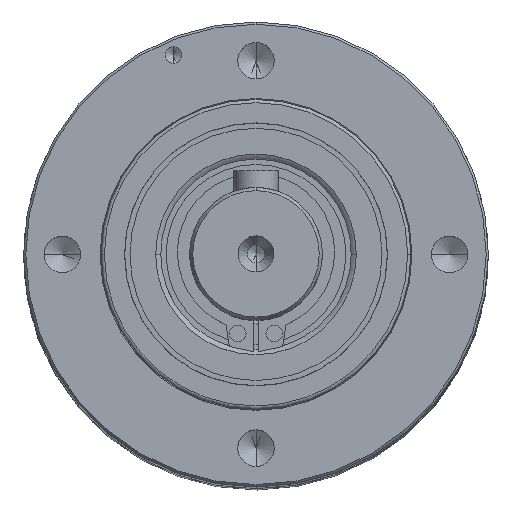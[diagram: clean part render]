
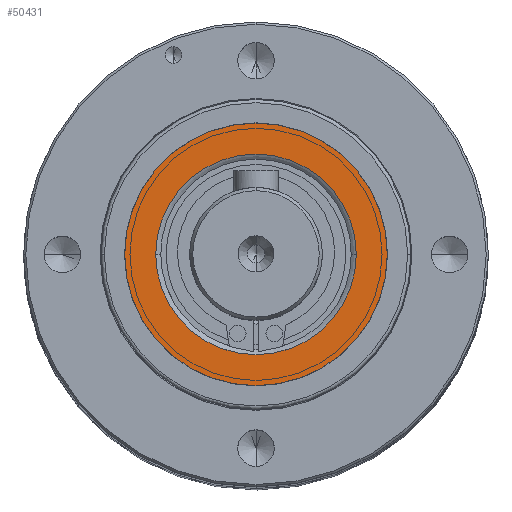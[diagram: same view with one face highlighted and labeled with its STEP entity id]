
A CAD part, top view. The second image highlights one B-rep face of the part: STEP entity #50431.
In plain terms, the highlighted planar face has unit normal (0, 0, 1).
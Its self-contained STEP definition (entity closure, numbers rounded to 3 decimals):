
#465 = CARTESIAN_POINT ( 'NONE',  ( 5.131, -8.599, 153.185 ) ) ;
#5792 = DIRECTION ( 'NONE',  ( 1., 0., 0. ) ) ;
#8802 = EDGE_LOOP ( 'NONE', ( #32938, #70756 ) ) ;
#9301 = FACE_BOUND ( 'NONE', #38501, .T. ) ;
#12866 = AXIS2_PLACEMENT_3D ( 'NONE', #22152, #46629, #71249 ) ;
#12896 = DIRECTION ( 'NONE',  ( 1., 0., 0. ) ) ;
#18991 = CIRCLE ( 'NONE', #47193, 11.865 ) ;
#22152 = CARTESIAN_POINT ( 'NONE',  ( 5.131, -8.599, 153.185 ) ) ;
#24553 = ORIENTED_EDGE ( 'NONE', *, *, #36371, .T. ) ;
#24849 = DIRECTION ( 'NONE',  ( 0., 0., -1. ) ) ;
#25744 = CARTESIAN_POINT ( 'NONE',  ( 16.996, -8.599, 153.185 ) ) ;
#27714 = PLANE ( 'NONE',  #69170 ) ;
#28499 = DIRECTION ( 'NONE',  ( 0., 0., 1. ) ) ;
#29289 = FACE_OUTER_BOUND ( 'NONE', #8802, .T. ) ;
#32938 = ORIENTED_EDGE ( 'NONE', *, *, #49093, .F. ) ;
#35812 = CARTESIAN_POINT ( 'NONE',  ( -3.929, -8.599, 153.185 ) ) ;
#36371 = EDGE_CURVE ( 'NONE', #51726, #52109, #71991, .T. ) ;
#38501 = EDGE_LOOP ( 'NONE', ( #38724, #24553 ) ) ;
#38724 = ORIENTED_EDGE ( 'NONE', *, *, #66225, .F. ) ;
#38905 = CARTESIAN_POINT ( 'NONE',  ( -6.734, -8.599, 153.185 ) ) ;
#41509 = VERTEX_POINT ( 'NONE', #25744 ) ;
#41541 = CIRCLE ( 'NONE', #42760, 11.865 ) ;
#42760 = AXIS2_PLACEMENT_3D ( 'NONE', #47430, #70834, #59202 ) ;
#46530 = CARTESIAN_POINT ( 'NONE',  ( 5.131, -8.599, 153.185 ) ) ;
#46629 = DIRECTION ( 'NONE',  ( 0., 0., 1. ) ) ;
#47193 = AXIS2_PLACEMENT_3D ( 'NONE', #56359, #55588, #5792 ) ;
#47334 = DIRECTION ( 'NONE',  ( 1., 0., 0. ) ) ;
#47430 = CARTESIAN_POINT ( 'NONE',  ( 5.131, -8.599, 153.185 ) ) ;
#48749 = CIRCLE ( 'NONE', #12866, 9.06 ) ;
#49093 = EDGE_CURVE ( 'NONE', #41509, #67061, #18991, .T. ) ;
#50431 = ADVANCED_FACE ( 'NONE', ( #9301, #29289 ), #27714, .T. ) ;
#51726 = VERTEX_POINT ( 'NONE', #75831 ) ;
#52109 = VERTEX_POINT ( 'NONE', #35812 ) ;
#55588 = DIRECTION ( 'NONE',  ( 0., 0., -1. ) ) ;
#56359 = CARTESIAN_POINT ( 'NONE',  ( 5.131, -8.599, 153.185 ) ) ;
#59202 = DIRECTION ( 'NONE',  ( 1., 0., 0. ) ) ;
#66225 = EDGE_CURVE ( 'NONE', #51726, #52109, #48749, .T. ) ;
#67061 = VERTEX_POINT ( 'NONE', #38905 ) ;
#69170 = AXIS2_PLACEMENT_3D ( 'NONE', #46530, #28499, #47334 ) ;
#70756 = ORIENTED_EDGE ( 'NONE', *, *, #74978, .T. ) ;
#70834 = DIRECTION ( 'NONE',  ( 0., 0., 1. ) ) ;
#71249 = DIRECTION ( 'NONE',  ( 1., 0., 0. ) ) ;
#71991 = CIRCLE ( 'NONE', #77126, 9.06 ) ;
#74978 = EDGE_CURVE ( 'NONE', #41509, #67061, #41541, .T. ) ;
#75831 = CARTESIAN_POINT ( 'NONE',  ( 14.191, -8.599, 153.185 ) ) ;
#77126 = AXIS2_PLACEMENT_3D ( 'NONE', #465, #24849, #12896 ) ;
